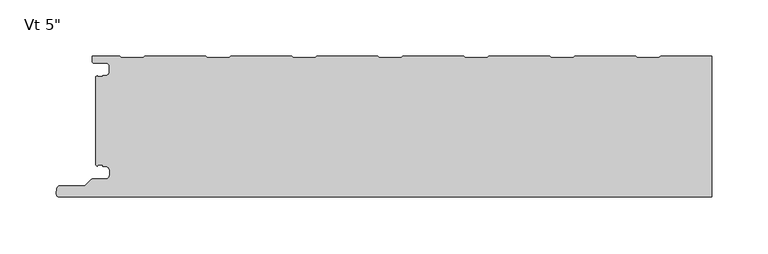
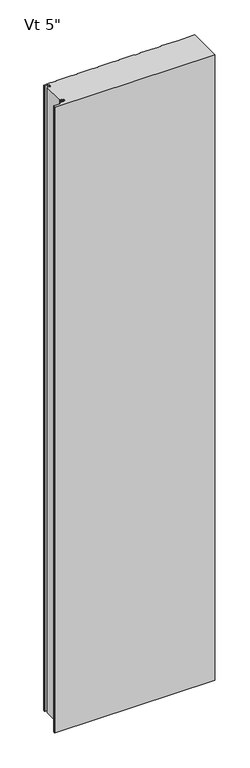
"""IFC4 building model written with IfcOpenShell, lengths in millimetres: plate geometry."""

from ifc_helpers import new_model, si_unit, frame, origin, place, context, project, spatial, polyline, circle_curve, source, transform, mapped, element, save
from ifc_brep_helpers import plane_surface, cylinder_surface, revolved_surface, advanced_brep


def plate_fb994a9e(model_context):
    return source(origin(), model_context, "Body", "AdvancedBrep", [
        advanced_brep(
        [(-271.7683, -98.670875, 2400.0), (-270.567176, -97.5014003, 2400.0), (-266.8087826, -97.5014003, 2400.0), (-266.8087826, -98.8998791, 2400.0), (-264.1096715, -98.8998791, 2400.0), (-260.7596762, -102.2498744, 2400.0), (-260.7596762, -106.6498656, 2400.0), (-264.1096715, -109.9998609, 2400.0), (-275.9205606, -109.9998609, 2400.0), (-277.1226383, -110.4977778, 2400.0), (-282.6247094, -115.9998489, 2400.0), (-304.7198391, -115.9998489, 2400.0), (-307.3765707, -118.2184509, 2400.0), (-307.8125697, -123.2002718, 2400.0), (-305.2521175, -125.9945967, 2400.0), (272.7999998, -126.0, 2400.0), (272.7999998, -1.0, 2400.0), (227.5795537, -1.0, 2400.0), (226.1939207, -2.2002307, 2400.0), (206.8187544, -2.2002307, 2400.0), (205.4331215, -1.0, 2400.0), (151.3797061, -1.0, 2400.0), (149.9940731, -2.2002307, 2400.0), (130.6189068, -2.2002307, 2400.0), (129.2332739, -1.0, 2400.0), (75.1798585, -1.0, 2400.0), (73.7942255, -2.2002307, 2400.0), (54.4190592, -2.2002307, 2400.0), (53.0334263, -1.0, 2400.0), (-1.0199891, -1.0, 2400.0), (-2.4056221, -2.2002307, 2400.0), (-21.7807884, -2.2002307, 2400.0), (-23.1664213, -1.0, 2400.0), (-77.2198367, -1.0, 2400.0), (-78.6054697, -2.2002307, 2400.0), (-97.980636, -2.2002307, 2400.0), (-99.3662689, -1.0, 2400.0), (-153.4196843, -1.0, 2400.0), (-154.8053173, -2.2002307, 2400.0), (-174.1804836, -2.2002307, 2400.0), (-175.5661165, -1.0, 2400.0), (-229.6195319, -1.0, 2400.0), (-231.0051649, -2.2002307, 2400.0), (-250.3803312, -2.2002307, 2400.0), (-251.7659738, -0.9999916, 2400.0), (-276.2662504, -0.9999916, 2400.0), (-276.2662504, -5.2315389, 2400.0), (-274.4962562, -7.0015331, 2400.0), (-264.0762777, -7.0015331, 2400.0), (-260.7762818, -10.301529, 2400.0), (-260.7762818, -14.7015202, 2400.0), (-264.0762775, -18.0015159, 2400.0), (-266.7684873, -18.0015159, 2400.0), (-266.7684873, -19.0015105, 2400.0), (-270.768691, -19.0015105, 2400.0), (-271.7686882, -18.0015192, 2400.0), (-272.7999998, -19.0328308, 2400.0), (-272.7999998, -97.6391751, 2400.0), (-271.7683, -98.670875, 0.0), (-272.7999998, -97.6391751, 0.0), (-272.7999998, -19.0328308, 0.0), (-271.7686882, -18.0015192, 0.0), (-270.768691, -19.0015105, 0.0), (-266.7684873, -19.0015105, 0.0), (-266.7684873, -18.0015159, 0.0), (-264.0762775, -18.0015159, 0.0), (-260.7762818, -14.7015202, 0.0), (-260.7762818, -10.301529, 0.0), (-264.0762777, -7.0015331, 0.0), (-274.4962562, -7.0015331, 0.0), (-276.2662504, -5.2315389, 0.0), (-276.2662504, -0.9999916, 0.0), (-251.7659738, -0.9999916, 0.0), (-250.3803312, -2.2002307, 0.0), (-231.0051649, -2.2002307, 0.0), (-229.6195319, -1.0, 0.0), (-175.5661165, -1.0, 0.0), (-174.1804836, -2.2002307, 0.0), (-154.8053173, -2.2002307, 0.0), (-153.4196843, -1.0, 0.0), (-99.3662689, -1.0, 0.0), (-97.980636, -2.2002307, 0.0), (-78.6054697, -2.2002307, 0.0), (-77.2198367, -1.0, 0.0), (-23.1664213, -1.0, 0.0), (-21.7807884, -2.2002307, 0.0), (-2.4056221, -2.2002307, 0.0), (-1.0199891, -1.0, 0.0), (53.0334263, -1.0, 0.0), (54.4190592, -2.2002307, 0.0), (73.7942255, -2.2002307, 0.0), (75.1798585, -1.0, 0.0), (129.2332739, -1.0, 0.0), (130.6189068, -2.2002307, 0.0), (149.9940731, -2.2002307, 0.0), (151.3797061, -1.0, 0.0), (205.4331215, -1.0, 0.0), (206.8187544, -2.2002307, 0.0), (226.1939207, -2.2002307, 0.0), (227.5795537, -1.0, 0.0), (272.7999998, -1.0, 0.0), (272.7999998, -126.0, 0.0), (-305.2521175, -126.0, 0.0), (-307.8125697, -123.2002718, 0.0), (-307.3765707, -118.2184509, 0.0), (-304.7198391, -115.9998489, 0.0), (-282.6247094, -115.9998489, 0.0), (-277.1226383, -110.4977778, 0.0), (-275.9205606, -109.9998609, 0.0), (-264.1096715, -109.9998609, 0.0), (-260.7596762, -106.6498656, 0.0), (-260.7596762, -102.2498744, 0.0), (-264.1096715, -98.8998791, 0.0), (-266.8087826, -98.8998791, 0.0), (-266.8087826, -97.5014003, 0.0), (-270.567176, -97.5014003, 0.0)],
        [
            (0, 1, circle_curve(frame((-270.5686906, -98.7013969, 2400.0), z_axis=(0.0, 0.0, -1.0), x_axis=(-1.0, 0.0, 0.0)), 1.1999976)),
            (1, 2),
            (2, 3),
            (3, 4),
            (4, 5, circle_curve(frame((-264.1096715, -102.2498744, 2400.0), z_axis=(0.0, 0.0, -1.0), x_axis=(-1.0, 0.0, 0.0)), 3.3499953)),
            (5, 6),
            (6, 7, circle_curve(frame((-264.1096715, -106.6498656, 2400.0), z_axis=(0.0, 0.0, -1.0), x_axis=(-1.0, 0.0, 0.0)), 3.3499953)),
            (7, 8),
            (8, 9, circle_curve(frame((-275.9205606, -111.6998555, 2400.0), z_axis=(0.0, 0.0, 1.0), x_axis=(-1.0, 0.0, 0.0)), 1.6999946)),
            (9, 10),
            (10, 11),
            (11, 12, circle_curve(frame((-304.7198391, -118.6998415, 2400.0), z_axis=(0.0, 0.0, 1.0), x_axis=(-1.0, 0.0, 0.0)), 2.6999926)),
            (12, 13),
            (13, 14, circle_curve(frame((-305.2521175, -123.4243575, 2400.0), z_axis=(0.0, 0.0, 1.0), x_axis=(-1.0, 0.0, 0.0)), 2.5702393)),
            (14, 15),
            (15, 16),
            (16, 17),
            (17, 18),
            (18, 19),
            (19, 20),
            (20, 21),
            (21, 22),
            (22, 23),
            (23, 24),
            (24, 25),
            (25, 26),
            (26, 27),
            (27, 28),
            (28, 29),
            (29, 30),
            (30, 31),
            (31, 32),
            (32, 33),
            (33, 34),
            (34, 35),
            (35, 36),
            (36, 37),
            (37, 38),
            (38, 39),
            (39, 40),
            (40, 41),
            (41, 42),
            (42, 43),
            (43, 44),
            (44, 45),
            (45, 46),
            (46, 47, circle_curve(frame((-274.4962562, -5.2315389, 2400.0), z_axis=(0.0, 0.0, 1.0), x_axis=(1.0, 0.0, 0.0)), 1.7699942)),
            (47, 48),
            (48, 49, circle_curve(frame((-264.0762777, -10.301529, 2400.0), z_axis=(0.0, 0.0, -1.0), x_axis=(1.0, 0.0, 0.0)), 3.2999959)),
            (49, 50),
            (50, 51, circle_curve(frame((-264.0762775, -14.7015202, 2400.0), z_axis=(0.0, 0.0, -1.0), x_axis=(1.0, 0.0, 0.0)), 3.2999957)),
            (51, 52),
            (52, 53),
            (53, 54),
            (54, 55, circle_curve(frame((-270.768691, -18.0015133, 2400.0), z_axis=(0.0, 0.0, -1.0), x_axis=(1.0, 0.0, 0.0)), 0.9999972)),
            (55, 56),
            (56, 57),
            (57, 0),
            (58, 59),
            (59, 60),
            (60, 61),
            (61, 62, circle_curve(frame((-270.768691, -18.0015133, 0.0), z_axis=(0.0, 0.0, 1.0), x_axis=(1.0, 0.0, 0.0)), 0.9999972)),
            (62, 63),
            (63, 64),
            (64, 65),
            (65, 66, circle_curve(frame((-264.0762775, -14.7015202, 0.0), z_axis=(0.0, 0.0, 1.0), x_axis=(1.0, 0.0, 0.0)), 3.2999957)),
            (66, 67),
            (67, 68, circle_curve(frame((-264.0762777, -10.301529, 0.0), z_axis=(0.0, 0.0, 1.0), x_axis=(1.0, 0.0, 0.0)), 3.2999959)),
            (68, 69),
            (69, 70, circle_curve(frame((-274.4962562, -5.2315389, 0.0), z_axis=(0.0, 0.0, -1.0), x_axis=(1.0, 0.0, 0.0)), 1.7699942)),
            (70, 71),
            (71, 72),
            (72, 73),
            (73, 74),
            (74, 75),
            (75, 76),
            (76, 77),
            (77, 78),
            (78, 79),
            (79, 80),
            (80, 81),
            (81, 82),
            (82, 83),
            (83, 84),
            (84, 85),
            (85, 86),
            (86, 87),
            (87, 88),
            (88, 89),
            (89, 90),
            (90, 91),
            (91, 92),
            (92, 93),
            (93, 94),
            (94, 95),
            (95, 96),
            (96, 97),
            (97, 98),
            (98, 99),
            (99, 100),
            (100, 101),
            (101, 102),
            (102, 103, circle_curve(frame((-305.2521175, -123.4243575, 0.0), z_axis=(0.0, 0.0, -1.0), x_axis=(-1.0, 0.0, 0.0)), 2.5702393)),
            (103, 104),
            (104, 105, circle_curve(frame((-304.7198391, -118.6998415, 0.0), z_axis=(0.0, 0.0, -1.0), x_axis=(-1.0, 0.0, 0.0)), 2.6999926)),
            (105, 106),
            (106, 107),
            (107, 108, circle_curve(frame((-275.9205606, -111.6998555, 0.0), z_axis=(0.0, 0.0, -1.0), x_axis=(-1.0, 0.0, 0.0)), 1.6999946)),
            (108, 109),
            (109, 110, circle_curve(frame((-264.1096715, -106.6498656, 0.0), z_axis=(0.0, 0.0, 1.0), x_axis=(-1.0, 0.0, 0.0)), 3.3499953)),
            (110, 111),
            (111, 112, circle_curve(frame((-264.1096715, -102.2498744, 0.0), z_axis=(0.0, 0.0, 1.0), x_axis=(-1.0, 0.0, 0.0)), 3.3499953)),
            (112, 113),
            (113, 114),
            (114, 115),
            (115, 58, circle_curve(frame((-270.5686906, -98.7013969, 0.0), z_axis=(0.0, 0.0, 1.0), x_axis=(-1.0, 0.0, 0.0)), 1.1999976)),
            (57, 59),
            (58, 0),
            (56, 60),
            (101, 15),
            (14, 102),
            (13, 103),
            (12, 104),
            (11, 105),
            (10, 106),
            (9, 107),
            (8, 108),
            (7, 109),
            (6, 110),
            (5, 111),
            (4, 112),
            (3, 113),
            (2, 114),
            (1, 115),
            (55, 61),
            (54, 62),
            (53, 63),
            (52, 64),
            (51, 65),
            (50, 66),
            (49, 67),
            (48, 68),
            (47, 69),
            (46, 70),
            (45, 71),
            (44, 72),
            (100, 16),
            (43, 73),
            (42, 74),
            (41, 75),
            (40, 76),
            (39, 77),
            (38, 78),
            (37, 79),
            (36, 80),
            (35, 81),
            (34, 82),
            (33, 83),
            (32, 84),
            (31, 85),
            (30, 86),
            (29, 87),
            (28, 88),
            (27, 89),
            (26, 90),
            (25, 91),
            (24, 92),
            (23, 93),
            (22, 94),
            (21, 95),
            (20, 96),
            (19, 97),
            (18, 98),
            (17, 99),
        ],
        [
            plane_surface(frame((184.4000002, -126.0, 2400.0), z_axis=(0.0, 0.0, 1.0), x_axis=(0.0, -1.0, 0.0))),
            plane_surface(frame((184.4000002, -126.0, 0.0), z_axis=(0.0, 0.0, -1.0), x_axis=(0.0, -1.0, 0.0))),
            plane_surface(frame((-271.7683, -98.670875, 2400.0), z_axis=(-0.707106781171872, -0.7071067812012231, 0.0), x_axis=(0.0, 0.0, -1.0))),
            plane_surface(frame((-272.7999998, -97.6391751, 2400.0), z_axis=(-1.0, 0.0, 0.0), x_axis=(0.0, 0.0, -1.0))),
            plane_surface(frame((593.1156221, -126.0, 2400.0), z_axis=(0.0, -1.0, 0.0), x_axis=(0.0, 0.0, -1.0))),
            cylinder_surface(frame((-305.2521175, -123.4243575, 2400.0), z_axis=(0.0, 0.0, 1.0), x_axis=(-1.0, 0.0, 0.0)), 2.5702393),
            plane_surface(frame((-307.8125697, -123.2002718, 2400.0), z_axis=(-0.9961921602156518, 0.08718474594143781, 0.0), x_axis=(0.0, 0.0, -1.0))),
            cylinder_surface(frame((-304.7198391, -118.6998415, 2400.0), z_axis=(0.0, 0.0, 1.0), x_axis=(-1.0, 0.0, 0.0)), 2.6999926),
            plane_surface(frame((-304.7198391, -115.9998489, 2400.0), z_axis=(0.0, 1.0, 0.0), x_axis=(0.0, 0.0, -1.0))),
            plane_surface(frame((-282.6247094, -115.9998489, 2400.0), z_axis=(-0.707106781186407, 0.7071067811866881, 0.0), x_axis=(0.0, 0.0, -1.0))),
            cylinder_surface(frame((-275.9205606, -111.6998555, 2400.0), z_axis=(0.0, 0.0, 1.0), x_axis=(-1.0, 0.0, 0.0)), 1.6999946),
            plane_surface(frame((-275.9205606, -109.9998609, 2400.0), z_axis=(0.0, 1.0, 0.0), x_axis=(0.0, 0.0, -1.0))),
            revolved_surface(polyline([(-267.4596668, -106.6498656, 0.0), (-267.4596668, -106.6498656, 2400.0)]), (-264.1096715, -106.6498656, 2400.0), (0.0, 0.0, -1.0)),
            plane_surface(frame((-260.7596762, -106.6498656, 2400.0), z_axis=(-1.0, 0.0, 0.0), x_axis=(0.0, 0.0, -1.0))),
            revolved_surface(polyline([(-267.4596668, -102.2498744, 0.0), (-267.4596668, -102.2498744, 2400.0)]), (-264.1096715, -102.2498744, 2400.0), (0.0, 0.0, -1.0)),
            plane_surface(frame((-264.1096715, -98.8998791, 2400.0), z_axis=(0.0, -1.0, 0.0), x_axis=(0.0, 0.0, -1.0))),
            plane_surface(frame((-266.8087826, -98.8998791, 2400.0), z_axis=(-1.0, 0.0, 0.0), x_axis=(0.0, 0.0, -1.0))),
            plane_surface(frame((-266.8087826, -97.5014003, 2400.0), z_axis=(0.0, -1.0, 0.0), x_axis=(0.0, 0.0, -1.0))),
            revolved_surface(polyline([(-271.76868820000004, -98.7013969, 0.0), (-271.76868820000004, -98.7013969, 2400.0)]), (-270.5686906, -98.7013969, 2400.0), (0.0, 0.0, -1.0)),
            plane_surface(frame((-272.7999998, -19.0328308, 2400.0), z_axis=(-0.7071067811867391, 0.707106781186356, 0.0), x_axis=(0.0, 0.0, -1.0))),
            revolved_surface(polyline([(-269.7686938, -18.0015133, 0.0), (-269.7686938, -18.0015133, 2400.0)]), (-270.768691, -18.0015133, 2400.0), (0.0, 0.0, -1.0)),
            plane_surface(frame((-270.768691, -19.0015105, 2400.0), z_axis=(0.0, 1.0, 0.0), x_axis=(0.0, 0.0, -1.0))),
            plane_surface(frame((-266.7684873, -19.0015105, 2400.0), z_axis=(-1.0, 0.0, 0.0), x_axis=(0.0, 0.0, -1.0))),
            plane_surface(frame((-266.7684873, -18.0015159, 2400.0), z_axis=(0.0, 1.0, 0.0), x_axis=(0.0, 0.0, -1.0))),
            revolved_surface(polyline([(-260.7762818, -14.7015202, 0.0), (-260.7762818, -14.7015202, 2400.0)]), (-264.0762775, -14.7015202, 2400.0), (0.0, 0.0, -1.0)),
            plane_surface(frame((-260.7762818, -14.7015202, 2400.0), z_axis=(-1.0, 0.0, 0.0), x_axis=(0.0, 0.0, -1.0))),
            revolved_surface(polyline([(-260.7762818, -10.301529, 0.0), (-260.7762818, -10.301529, 2400.0)]), (-264.0762777, -10.301529, 2400.0), (0.0, 0.0, -1.0)),
            plane_surface(frame((-264.0762777, -7.0015331, 2400.0), z_axis=(0.0, -1.0, 0.0), x_axis=(0.0, 0.0, -1.0))),
            cylinder_surface(frame((-274.4962562, -5.2315389, 2400.0), z_axis=(0.0, 0.0, 1.0), x_axis=(1.0, 0.0, 0.0)), 1.7699942),
            plane_surface(frame((-276.2662504, -5.2315389, 2400.0), z_axis=(-1.0, 0.0, 0.0), x_axis=(0.0, 0.0, -1.0))),
            plane_surface(frame((-276.2662504, -0.9999916, 2400.0), z_axis=(0.0, 1.0, 0.0), x_axis=(0.0, 0.0, -1.0))),
            plane_surface(frame((272.7999998, -137.0, 2400.0), z_axis=(1.0, 0.0, 0.0), x_axis=(0.0, 0.0, -1.0))),
            plane_surface(frame((-251.7659738, -0.9999916, 2400.0), z_axis=(0.6547276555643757, 0.7558648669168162, 0.0), x_axis=(0.0, 0.0, -1.0))),
            plane_surface(frame((-250.3803312, -2.2002307, 2400.0), z_axis=(0.0, 1.0, 0.0), x_axis=(0.0, 0.0, -1.0))),
            plane_surface(frame((-231.0051649, -2.2002307, 2400.0), z_axis=(-0.6547276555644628, 0.7558648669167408, 0.0), x_axis=(0.0, 0.0, -1.0))),
            plane_surface(frame((-229.6195319, -1.0, 2400.0), z_axis=(0.0, 1.0, 0.0), x_axis=(0.0, 0.0, -1.0))),
            plane_surface(frame((-175.5661165, -1.0, 2400.0), z_axis=(0.6547276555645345, 0.7558648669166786, 0.0), x_axis=(0.0, 0.0, -1.0))),
            plane_surface(frame((-174.1804836, -2.2002307, 2400.0), z_axis=(0.0, 1.0, 0.0), x_axis=(0.0, 0.0, -1.0))),
            plane_surface(frame((-154.8053173, -2.2002307, 2400.0), z_axis=(-0.654727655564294, 0.755864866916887, 0.0), x_axis=(0.0, 0.0, -1.0))),
            plane_surface(frame((-153.4196843, -1.0, 2400.0), z_axis=(0.0, 1.0, 0.0), x_axis=(0.0, 0.0, -1.0))),
            plane_surface(frame((-99.3662689, -1.0, 2400.0), z_axis=(0.6547276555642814, 0.7558648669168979, 0.0), x_axis=(0.0, 0.0, -1.0))),
            plane_surface(frame((-97.980636, -2.2002307, 2400.0), z_axis=(0.0, 1.0, 0.0), x_axis=(0.0, 0.0, -1.0))),
            plane_surface(frame((-78.6054697, -2.2002307, 2400.0), z_axis=(-0.6547276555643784, 0.7558648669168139, 0.0), x_axis=(0.0, 0.0, -1.0))),
            plane_surface(frame((-77.2198367, -1.0, 2400.0), z_axis=(0.0, 1.0, 0.0), x_axis=(0.0, 0.0, -1.0))),
            plane_surface(frame((-23.1664213, -1.0, 2400.0), z_axis=(0.6547276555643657, 0.7558648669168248, 0.0), x_axis=(0.0, 0.0, -1.0))),
            plane_surface(frame((-21.7807884, -2.2002307, 2400.0), z_axis=(0.0, 1.0, 0.0), x_axis=(0.0, 0.0, -1.0))),
            plane_surface(frame((-2.4056221, -2.2002307, 2400.0), z_axis=(-0.6547276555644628, 0.7558648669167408, 0.0), x_axis=(0.0, 0.0, -1.0))),
            plane_surface(frame((-1.0199891, -1.0, 2400.0), z_axis=(0.0, 1.0, 0.0), x_axis=(0.0, 0.0, -1.0))),
            plane_surface(frame((53.0334263, -1.0, 2400.0), z_axis=(0.6547276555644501, 0.7558648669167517, 0.0), x_axis=(0.0, 0.0, -1.0))),
            plane_surface(frame((54.4190592, -2.2002307, 2400.0), z_axis=(0.0, 1.0, 0.0), x_axis=(0.0, 0.0, -1.0))),
            plane_surface(frame((73.7942255, -2.2002307, 2400.0), z_axis=(-0.6547276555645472, 0.7558648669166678, 0.0), x_axis=(0.0, 0.0, -1.0))),
            plane_surface(frame((75.1798585, -1.0, 2400.0), z_axis=(0.0, 1.0, 0.0), x_axis=(0.0, 0.0, -1.0))),
            plane_surface(frame((129.2332739, -1.0, 2400.0), z_axis=(0.6547276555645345, 0.7558648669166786, 0.0), x_axis=(0.0, 0.0, -1.0))),
            plane_surface(frame((130.6189068, -2.2002307, 2400.0), z_axis=(0.0, 1.0, 0.0), x_axis=(0.0, 0.0, -1.0))),
            plane_surface(frame((149.9940731, -2.2002307, 2400.0), z_axis=(-0.6547276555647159, 0.7558648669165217, 0.0), x_axis=(0.0, 0.0, -1.0))),
            plane_surface(frame((151.3797061, -1.0, 2400.0), z_axis=(0.0, 1.0, 0.0), x_axis=(0.0, 0.0, -1.0))),
            plane_surface(frame((205.4331215, -1.0, 2400.0), z_axis=(0.6547276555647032, 0.7558648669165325, 0.0), x_axis=(0.0, 0.0, -1.0))),
            plane_surface(frame((206.8187544, -2.2002307, 2400.0), z_axis=(0.0, 1.0, 0.0), x_axis=(0.0, 0.0, -1.0))),
            plane_surface(frame((226.1939207, -2.2002307, 2400.0), z_axis=(-0.6547276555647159, 0.7558648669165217, 0.0), x_axis=(0.0, 0.0, -1.0))),
            plane_surface(frame((227.5795537, -1.0, 2400.0), z_axis=(0.0, 1.0, 0.0), x_axis=(0.0, 0.0, -1.0))),
        ],
        [
            (0, [[1, 2, 3, 4, 5, 6, 7, 8, 9, 10, 11, 12, 13, 14, 15, 16, 17, 18, 19, 20, 21, 22, 23, 24, 25, 26, 27, 28, 29, 30, 31, 32, 33, 34, 35, 36, 37, 38, 39, 40, 41, 42, 43, 44, 45, 46, 47, 48, 49, 50, 51, 52, 53, 54, 55, 56, 57, 58]]),
            (1, [[59, 60, 61, 62, 63, 64, 65, 66, 67, 68, 69, 70, 71, 72, 73, 74, 75, 76, 77, 78, 79, 80, 81, 82, 83, 84, 85, 86, 87, 88, 89, 90, 91, 92, 93, 94, 95, 96, 97, 98, 99, 100, 101, 102, 103, 104, 105, 106, 107, 108, 109, 110, 111, 112, 113, 114, 115, 116]]),
            (2, [[117, -59, 118, -58]]),
            (3, [[-57, 119, -60, -117]]),
            (4, [[-102, 120, -15, 121]]),
            (5, [[122, -103, -121, -14]]),
            (6, [[123, -104, -122, -13]]),
            (7, [[124, -105, -123, -12]]),
            (8, [[125, -106, -124, -11]]),
            (9, [[126, -107, -125, -10]]),
            (10, [[127, -108, -126, -9]]),
            (11, [[128, -109, -127, -8]]),
            (12, [[129, -110, -128, -7]]),
            (13, [[130, -111, -129, -6]]),
            (14, [[131, -112, -130, -5]]),
            (15, [[132, -113, -131, -4]]),
            (16, [[133, -114, -132, -3]]),
            (17, [[134, -115, -133, -2]]),
            (18, [[-118, -116, -134, -1]]),
            (19, [[135, -61, -119, -56]]),
            (20, [[136, -62, -135, -55]]),
            (21, [[137, -63, -136, -54]]),
            (22, [[138, -64, -137, -53]]),
            (23, [[139, -65, -138, -52]]),
            (24, [[140, -66, -139, -51]]),
            (25, [[141, -67, -140, -50]]),
            (26, [[142, -68, -141, -49]]),
            (27, [[143, -69, -142, -48]]),
            (28, [[144, -70, -143, -47]]),
            (29, [[145, -71, -144, -46]]),
            (30, [[146, -72, -145, -45]]),
            (31, [[-120, -101, 147, -16]]),
            (32, [[148, -73, -146, -44]]),
            (33, [[149, -74, -148, -43]]),
            (34, [[150, -75, -149, -42]]),
            (35, [[151, -76, -150, -41]]),
            (36, [[152, -77, -151, -40]]),
            (37, [[153, -78, -152, -39]]),
            (38, [[154, -79, -153, -38]]),
            (39, [[155, -80, -154, -37]]),
            (40, [[156, -81, -155, -36]]),
            (41, [[157, -82, -156, -35]]),
            (42, [[158, -83, -157, -34]]),
            (43, [[159, -84, -158, -33]]),
            (44, [[160, -85, -159, -32]]),
            (45, [[161, -86, -160, -31]]),
            (46, [[162, -87, -161, -30]]),
            (47, [[163, -88, -162, -29]]),
            (48, [[164, -89, -163, -28]]),
            (49, [[165, -90, -164, -27]]),
            (50, [[166, -91, -165, -26]]),
            (51, [[167, -92, -166, -25]]),
            (52, [[168, -93, -167, -24]]),
            (53, [[169, -94, -168, -23]]),
            (54, [[170, -95, -169, -22]]),
            (55, [[171, -96, -170, -21]]),
            (56, [[172, -97, -171, -20]]),
            (57, [[173, -98, -172, -19]]),
            (58, [[174, -99, -173, -18]]),
            (59, [[-17, -147, -100, -174]]),
        ],
    ),
    ])


if __name__ == "__main__":
    model = new_model("IFC4")
    model_context = context("Model", 3, world=origin())
    ifc_project = project(units=[si_unit("LENGTHUNIT", "METRE", prefix="MILLI")], contexts=[model_context])
    site = spatial("IfcSite", under=ifc_project)
    building = spatial("IfcBuilding", under=site)
    placement = place(None, origin())
    plate_shape = plate_fb994a9e(model_context)
    element("IfcPlate", 1, ObjectType="KIP-36-Karrier-KP-R19-CP-Vt-FL3-8in_SL : Vt 5\"", at=placement, inside=building, context=model_context, shape_type="MappedRepresentation", body=[
        mapped(plate_shape, transform((0.0, 0.0, 0.0), x_axis=(1.0, 0.0, 0.0), y_axis=(0.0, 1.0, 0.0), z_axis=(0.0, 0.0, 1.0))),
    ])
    save(model, "model.ifc")
